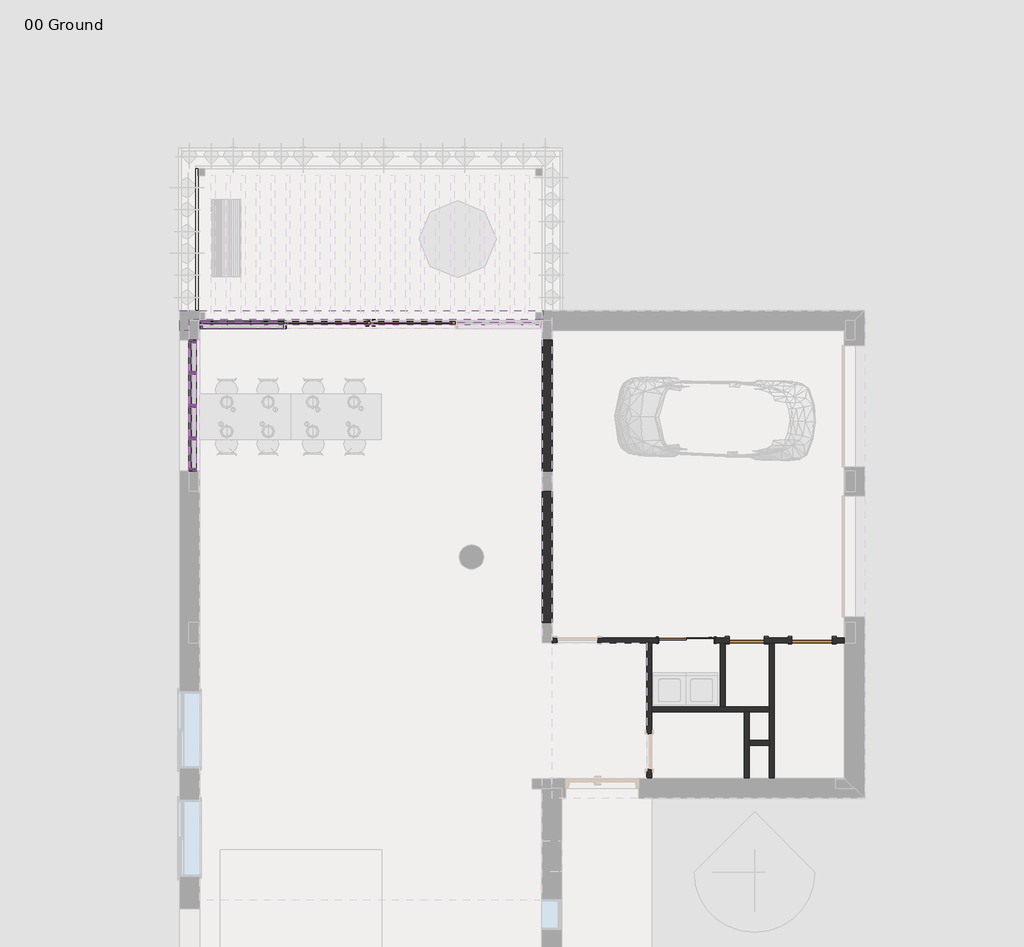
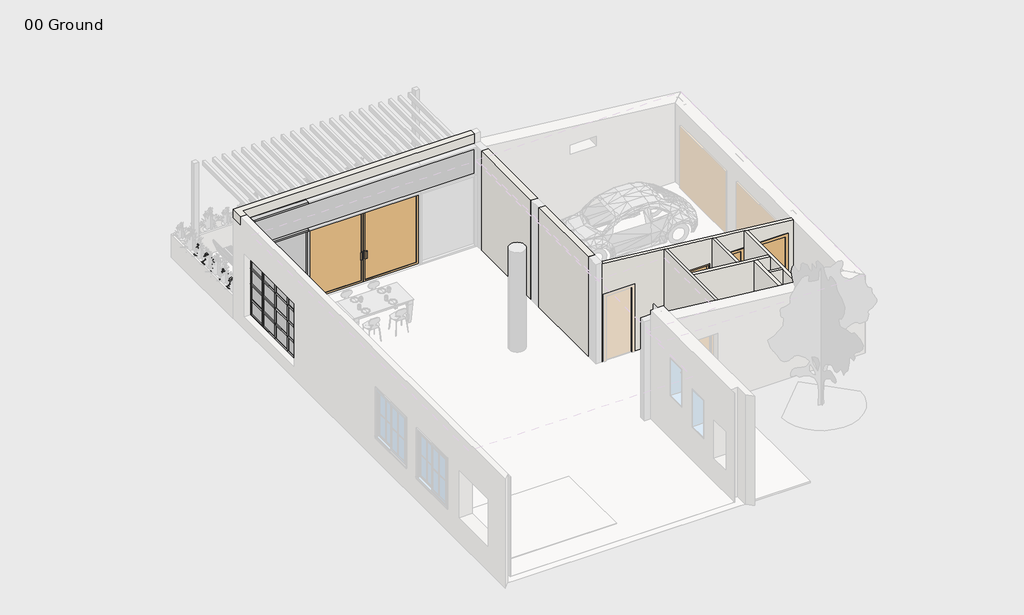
# One storey, part 2 of 4: 46 members, 18 plates, 10 walls, 4 doors.
"""IFC4 building model written with IfcOpenShell, lengths in millimetres."""

from ifc_helpers import new_model, si_unit, frame, origin, origin_with_axes, place, context, project, spatial, polyline, outline, extrude, faceted_brep, transform, mapped, element, save
from components import int_sliding_double_flush_nz_1100_double_sliding_door_f9a858bd, m_door_curtain_wall_double_storefront_m_door_curtain_wall_edb91ac7, m_single_flush_0700_x_2100mm_23326b45, m_single_flush_0800_x_2100mm_e1c1bfab, rectangular_mullion_50_x_150mm_ec782ea6, rectangular_mullion_50_x_150mm_324a6438, rectangular_mullion_50_x_150mm_8753ce05, rectangular_mullion_50_x_150mm_5618a3b2, rectangular_mullion_50_x_150mm_9d7ed0e7, rectangular_mullion_50_x_150mm_3942d5f1, rectangular_mullion_50_x_150mm_75048c14, rectangular_mullion_50_x_150mm_567eccab, rectangular_mullion_50_x_150mm_22f77a7a, rectangular_mullion_50_x_150mm_0a8c3443, rectangular_mullion_50_x_150mm_b3666dbd, rectangular_mullion_50_x_150mm_fcf054f2, rectangular_mullion_50_x_150mm_24157160, rectangular_mullion_50_x_150mm_bf0cb304, system_panel_glazed_5c27190a, system_panel_glazed_fdc58650, system_panel_glazed_d06015c9, system_panel_glazed_e38ec663, system_panel_glazed_707fa540, system_panel_solid_6db23722

model = new_model("IFC4")

# Units and contexts
model_context = context("Model", 3, world=origin())
ifc_project = project(units=[si_unit("LENGTHUNIT", "METRE", prefix="MILLI")], contexts=[model_context])

# Site, building, storey
site = spatial("IfcSite", under=ifc_project)
building = spatial("IfcBuilding", under=site)
storey = spatial("IfcBuildingStorey", under=building, Name="00 Ground", Elevation=0.0)

# Doors
placement = place(None, origin())
int_sliding_double_flush_nz_1100_double_sliding_door_shape = int_sliding_double_flush_nz_1100_double_sliding_door_f9a858bd(model_context)
element("IfcDoor", 1, ObjectType="Int Sliding Double-Flush (NZ) : 1100 DOUBLE SLIDING DOOR", at=placement, inside=storey, context=model_context, shape_type="MappedRepresentation", body=[
    mapped(int_sliding_double_flush_nz_1100_double_sliding_door_shape, transform((1539.7163421, -12.7101648, 0.0), x_axis=(1.0, 0.0, 0.0), y_axis=(0.0, 1.0, 0.0), z_axis=(0.0, 0.0, 1.0))),
])
m_door_curtain_wall_double_storefront_m_door_curtain_wall_shape = m_door_curtain_wall_double_storefront_m_door_curtain_wall_edb91ac7(model_context)
element("IfcDoor", 2, ObjectType="M_Door-Curtain-Wall-Double-Storefront : M_Door-Curtain-Wall-Double-Storefront", at=placement, inside=storey, context=model_context, shape_type="MappedRepresentation", body=[
    mapped(m_door_curtain_wall_double_storefront_m_door_curtain_wall_shape, transform((-4722.5407999, 6242.2898352, 0.0), x_axis=(1.0, 0.0, 0.0), y_axis=(0.0, 1.0, 0.0), z_axis=(0.0, 0.0, 1.0))),
])
m_single_flush_0700_x_2100mm_shape = m_single_flush_0700_x_2100mm_23326b45(model_context)
element("IfcDoor", 3, ObjectType="M_Single-Flush : 0700 x 2100mm", at=placement, inside=storey, context=model_context, shape_type="MappedRepresentation", body=[
    mapped(m_single_flush_0700_x_2100mm_shape, transform((2727.4592001, -12.7101648, 0.0), x_axis=(-1.0, 0.0, 0.0), y_axis=(0.0, -1.0, 0.0), z_axis=(0.0, 0.0, 1.0))),
])
m_single_flush_0800_x_2100mm_shape = m_single_flush_0800_x_2100mm_e1c1bfab(model_context)
element("IfcDoor", 4, ObjectType="M_Single-Flush : 0800 x 2100mm", at=placement, inside=storey, context=model_context, shape_type="MappedRepresentation", body=[
    mapped(m_single_flush_0800_x_2100mm_shape, transform((4024.4592001, -12.7101648, 0.0), x_axis=(1.0, 0.0, 0.0), y_axis=(0.0, 1.0, 0.0), z_axis=(0.0, 0.0, 1.0))),
])

# Members
rectangular_mullion_50_x_150mm_shape = rectangular_mullion_50_x_150mm_ec782ea6(model_context)
element("IfcMember", 5, ObjectType="Rectangular Mullion : 50 x 150mm", at=placement, inside=storey, context=model_context, shape_type="MappedRepresentation", body=[
    mapped(rectangular_mullion_50_x_150mm_shape, transform((-6422.5407999, 6242.2898352, 0.0), x_axis=(1.0, 0.0, 0.0), y_axis=(0.0, -1.0, 0.0), z_axis=(0.0, 0.0, -1.0))),
])
rectangular_mullion_50_x_150mm_2_shape = rectangular_mullion_50_x_150mm_324a6438(model_context)
element("IfcMember", 6, ObjectType="Rectangular Mullion : 50 x 150mm", at=placement, inside=storey, context=model_context, shape_type="MappedRepresentation", body=[
    mapped(rectangular_mullion_50_x_150mm_2_shape, transform((-8109.5407999, 6242.2898352, 3150.0), x_axis=(-1.0, 0.0, 0.0), y_axis=(0.0, -1.0, 0.0), z_axis=(0.0, 0.0, 1.0))),
])
rectangular_mullion_50_x_150mm_3_shape = rectangular_mullion_50_x_150mm_8753ce05(model_context)
element("IfcMember", 7, ObjectType="Rectangular Mullion : 50 x 150mm", at=placement, inside=storey, context=model_context, shape_type="MappedRepresentation", body=[
    mapped(rectangular_mullion_50_x_150mm_3_shape, transform((-8109.5407999, 6242.2898352, 2300.0), x_axis=(-1.0, 0.0, 0.0), y_axis=(0.0, -1.0, 0.0), z_axis=(0.0, 0.0, 1.0))),
])
rectangular_mullion_50_x_150mm_4_shape = rectangular_mullion_50_x_150mm_5618a3b2(model_context)
element("IfcMember", 8, ObjectType="Rectangular Mullion : 50 x 150mm", at=placement, inside=storey, context=model_context, shape_type="MappedRepresentation", body=[
    mapped(rectangular_mullion_50_x_150mm_4_shape, transform((-8247.5407999, 5937.2898352, 2400.0), x_axis=(0.0, 0.0, 1.0), y_axis=(1.0, 0.0, 0.0), z_axis=(0.0, 1.0, 0.0))),
])
element("IfcMember", 9, ObjectType="Rectangular Mullion : 50 x 150mm", at=placement, inside=storey, context=model_context, shape_type="MappedRepresentation", body=[
    mapped(rectangular_mullion_50_x_150mm_4_shape, transform((-8247.5407999, 3987.2898354, 2400.0), x_axis=(0.0, 0.0, 1.0), y_axis=(1.0, 0.0, 0.0), z_axis=(0.0, 1.0, 0.0))),
])
rectangular_mullion_50_x_150mm_5_shape = rectangular_mullion_50_x_150mm_9d7ed0e7(model_context)
element("IfcMember", 10, ObjectType="Rectangular Mullion : 50 x 150mm", at=placement, inside=storey, context=model_context, shape_type="MappedRepresentation", body=[
    mapped(rectangular_mullion_50_x_150mm_5_shape, transform((-8247.5407999, 4637.2898352, 2400.0), x_axis=(0.0, 0.0, 1.0), y_axis=(1.0, 0.0, 0.0), z_axis=(0.0, 1.0, 0.0))),
])
element("IfcMember", 11, ObjectType="Rectangular Mullion : 50 x 150mm", at=placement, inside=storey, context=model_context, shape_type="MappedRepresentation", body=[
    mapped(rectangular_mullion_50_x_150mm_5_shape, transform((-8247.5407999, 5287.2898351, 2400.0), x_axis=(0.0, 0.0, 1.0), y_axis=(1.0, 0.0, 0.0), z_axis=(0.0, 1.0, 0.0))),
])
element("IfcMember", 12, ObjectType="Rectangular Mullion : 50 x 150mm", at=placement, inside=storey, context=model_context, shape_type="MappedRepresentation", body=[
    mapped(rectangular_mullion_50_x_150mm_4_shape, transform((-8247.5407999, 3337.2898352, 400.0), x_axis=(0.0, 0.0, -1.0), y_axis=(1.0, 0.0, 0.0), z_axis=(0.0, -1.0, 0.0))),
])
element("IfcMember", 13, ObjectType="Rectangular Mullion : 50 x 150mm", at=placement, inside=storey, context=model_context, shape_type="MappedRepresentation", body=[
    mapped(rectangular_mullion_50_x_150mm_5_shape, transform((-8247.5407999, 3987.2898354, 400.0), x_axis=(0.0, 0.0, -1.0), y_axis=(1.0, 0.0, 0.0), z_axis=(0.0, -1.0, 0.0))),
])
element("IfcMember", 14, ObjectType="Rectangular Mullion : 50 x 150mm", at=placement, inside=storey, context=model_context, shape_type="MappedRepresentation", body=[
    mapped(rectangular_mullion_50_x_150mm_5_shape, transform((-8247.5407999, 4637.2898352, 400.0), x_axis=(0.0, 0.0, -1.0), y_axis=(1.0, 0.0, 0.0), z_axis=(0.0, -1.0, 0.0))),
])
element("IfcMember", 15, ObjectType="Rectangular Mullion : 50 x 150mm", at=placement, inside=storey, context=model_context, shape_type="MappedRepresentation", body=[
    mapped(rectangular_mullion_50_x_150mm_4_shape, transform((-8247.5407999, 5287.2898351, 400.0), x_axis=(0.0, 0.0, -1.0), y_axis=(1.0, 0.0, 0.0), z_axis=(0.0, -1.0, 0.0))),
])
rectangular_mullion_50_x_150mm_6_shape = rectangular_mullion_50_x_150mm_3942d5f1(model_context)
element("IfcMember", 16, ObjectType="Rectangular Mullion : 50 x 150mm", at=placement, inside=storey, context=model_context, shape_type="MappedRepresentation", body=[
    mapped(rectangular_mullion_50_x_150mm_6_shape, transform((-8247.5407999, 3962.2898354, 900.0), x_axis=(0.0, 0.0, 1.0), y_axis=(1.0, 0.0, 0.0), z_axis=(0.0, 1.0, 0.0))),
])
element("IfcMember", 17, ObjectType="Rectangular Mullion : 50 x 150mm", at=placement, inside=storey, context=model_context, shape_type="MappedRepresentation", body=[
    mapped(rectangular_mullion_50_x_150mm_6_shape, transform((-8247.5407999, 5887.2898352, 900.0), x_axis=(0.0, 0.0, 1.0), y_axis=(1.0, 0.0, 0.0), z_axis=(0.0, 1.0, 0.0))),
])
element("IfcMember", 18, ObjectType="Rectangular Mullion : 50 x 150mm", at=placement, inside=storey, context=model_context, shape_type="MappedRepresentation", body=[
    mapped(rectangular_mullion_50_x_150mm_6_shape, transform((-8247.5407999, 3962.2898354, 1400.0), x_axis=(0.0, 0.0, 1.0), y_axis=(1.0, 0.0, 0.0), z_axis=(0.0, 1.0, 0.0))),
])
element("IfcMember", 19, ObjectType="Rectangular Mullion : 50 x 150mm", at=placement, inside=storey, context=model_context, shape_type="MappedRepresentation", body=[
    mapped(rectangular_mullion_50_x_150mm_6_shape, transform((-8247.5407999, 5887.2898352, 1400.0), x_axis=(0.0, 0.0, 1.0), y_axis=(1.0, 0.0, 0.0), z_axis=(0.0, 1.0, 0.0))),
])
element("IfcMember", 20, ObjectType="Rectangular Mullion : 50 x 150mm", at=placement, inside=storey, context=model_context, shape_type="MappedRepresentation", body=[
    mapped(rectangular_mullion_50_x_150mm_6_shape, transform((-8247.5407999, 3962.2898354, 1900.0), x_axis=(0.0, 0.0, 1.0), y_axis=(1.0, 0.0, 0.0), z_axis=(0.0, 1.0, 0.0))),
])
element("IfcMember", 21, ObjectType="Rectangular Mullion : 50 x 150mm", at=placement, inside=storey, context=model_context, shape_type="MappedRepresentation", body=[
    mapped(rectangular_mullion_50_x_150mm_6_shape, transform((-8247.5407999, 5887.2898352, 1900.0), x_axis=(0.0, 0.0, 1.0), y_axis=(1.0, 0.0, 0.0), z_axis=(0.0, 1.0, 0.0))),
])
rectangular_mullion_50_x_150mm_7_shape = rectangular_mullion_50_x_150mm_75048c14(model_context)
element("IfcMember", 22, ObjectType="Rectangular Mullion : 50 x 150mm", at=placement, inside=storey, context=model_context, shape_type="MappedRepresentation", body=[
    mapped(rectangular_mullion_50_x_150mm_7_shape, transform((-8247.5407999, 4612.2898352, 900.0), x_axis=(0.0, 0.0, 1.0), y_axis=(1.0, 0.0, 0.0), z_axis=(0.0, 1.0, 0.0))),
])
element("IfcMember", 23, ObjectType="Rectangular Mullion : 50 x 150mm", at=placement, inside=storey, context=model_context, shape_type="MappedRepresentation", body=[
    mapped(rectangular_mullion_50_x_150mm_7_shape, transform((-8247.5407999, 5262.2898351, 900.0), x_axis=(0.0, 0.0, 1.0), y_axis=(1.0, 0.0, 0.0), z_axis=(0.0, 1.0, 0.0))),
])
element("IfcMember", 24, ObjectType="Rectangular Mullion : 50 x 150mm", at=placement, inside=storey, context=model_context, shape_type="MappedRepresentation", body=[
    mapped(rectangular_mullion_50_x_150mm_7_shape, transform((-8247.5407999, 4612.2898352, 1400.0), x_axis=(0.0, 0.0, 1.0), y_axis=(1.0, 0.0, 0.0), z_axis=(0.0, 1.0, 0.0))),
])
element("IfcMember", 25, ObjectType="Rectangular Mullion : 50 x 150mm", at=placement, inside=storey, context=model_context, shape_type="MappedRepresentation", body=[
    mapped(rectangular_mullion_50_x_150mm_7_shape, transform((-8247.5407999, 5262.2898351, 1400.0), x_axis=(0.0, 0.0, 1.0), y_axis=(1.0, 0.0, 0.0), z_axis=(0.0, 1.0, 0.0))),
])
element("IfcMember", 26, ObjectType="Rectangular Mullion : 50 x 150mm", at=placement, inside=storey, context=model_context, shape_type="MappedRepresentation", body=[
    mapped(rectangular_mullion_50_x_150mm_7_shape, transform((-8247.5407999, 4612.2898352, 1900.0), x_axis=(0.0, 0.0, 1.0), y_axis=(1.0, 0.0, 0.0), z_axis=(0.0, 1.0, 0.0))),
])
element("IfcMember", 27, ObjectType="Rectangular Mullion : 50 x 150mm", at=placement, inside=storey, context=model_context, shape_type="MappedRepresentation", body=[
    mapped(rectangular_mullion_50_x_150mm_7_shape, transform((-8247.5407999, 5262.2898351, 1900.0), x_axis=(0.0, 0.0, 1.0), y_axis=(1.0, 0.0, 0.0), z_axis=(0.0, 1.0, 0.0))),
])
rectangular_mullion_50_x_150mm_8_shape = rectangular_mullion_50_x_150mm_567eccab(model_context)
element("IfcMember", 28, ObjectType="Rectangular Mullion : 50 x 150mm", at=placement, inside=storey, context=model_context, shape_type="MappedRepresentation", body=[
    mapped(rectangular_mullion_50_x_150mm_8_shape, transform((-8247.5407999, 3987.2898354, 450.0), x_axis=(0.0, 1.0, 0.0), y_axis=(1.0, 0.0, 0.0), z_axis=(0.0, 0.0, -1.0))),
])
element("IfcMember", 29, ObjectType="Rectangular Mullion : 50 x 150mm", at=placement, inside=storey, context=model_context, shape_type="MappedRepresentation", body=[
    mapped(rectangular_mullion_50_x_150mm_8_shape, transform((-8247.5407999, 4637.2898352, 450.0), x_axis=(0.0, 1.0, 0.0), y_axis=(1.0, 0.0, 0.0), z_axis=(0.0, 0.0, -1.0))),
])
element("IfcMember", 30, ObjectType="Rectangular Mullion : 50 x 150mm", at=placement, inside=storey, context=model_context, shape_type="MappedRepresentation", body=[
    mapped(rectangular_mullion_50_x_150mm_8_shape, transform((-8247.5407999, 5287.2898351, 450.0), x_axis=(0.0, 1.0, 0.0), y_axis=(1.0, 0.0, 0.0), z_axis=(0.0, 0.0, -1.0))),
])
rectangular_mullion_50_x_150mm_9_shape = rectangular_mullion_50_x_150mm_22f77a7a(model_context)
element("IfcMember", 31, ObjectType="Rectangular Mullion : 50 x 150mm", at=placement, inside=storey, context=model_context, shape_type="MappedRepresentation", body=[
    mapped(rectangular_mullion_50_x_150mm_9_shape, transform((-8247.5407999, 3987.2898354, 900.0), x_axis=(0.0, 1.0, 0.0), y_axis=(1.0, 0.0, 0.0), z_axis=(0.0, 0.0, -1.0))),
])
element("IfcMember", 32, ObjectType="Rectangular Mullion : 50 x 150mm", at=placement, inside=storey, context=model_context, shape_type="MappedRepresentation", body=[
    mapped(rectangular_mullion_50_x_150mm_9_shape, transform((-8247.5407999, 4637.2898352, 900.0), x_axis=(0.0, 1.0, 0.0), y_axis=(1.0, 0.0, 0.0), z_axis=(0.0, 0.0, -1.0))),
])
element("IfcMember", 33, ObjectType="Rectangular Mullion : 50 x 150mm", at=placement, inside=storey, context=model_context, shape_type="MappedRepresentation", body=[
    mapped(rectangular_mullion_50_x_150mm_9_shape, transform((-8247.5407999, 5287.2898351, 900.0), x_axis=(0.0, 1.0, 0.0), y_axis=(1.0, 0.0, 0.0), z_axis=(0.0, 0.0, -1.0))),
])
element("IfcMember", 34, ObjectType="Rectangular Mullion : 50 x 150mm", at=placement, inside=storey, context=model_context, shape_type="MappedRepresentation", body=[
    mapped(rectangular_mullion_50_x_150mm_9_shape, transform((-8247.5407999, 3987.2898354, 1400.0), x_axis=(0.0, 1.0, 0.0), y_axis=(1.0, 0.0, 0.0), z_axis=(0.0, 0.0, -1.0))),
])
element("IfcMember", 35, ObjectType="Rectangular Mullion : 50 x 150mm", at=placement, inside=storey, context=model_context, shape_type="MappedRepresentation", body=[
    mapped(rectangular_mullion_50_x_150mm_9_shape, transform((-8247.5407999, 4637.2898352, 1400.0), x_axis=(0.0, 1.0, 0.0), y_axis=(1.0, 0.0, 0.0), z_axis=(0.0, 0.0, -1.0))),
])
element("IfcMember", 36, ObjectType="Rectangular Mullion : 50 x 150mm", at=placement, inside=storey, context=model_context, shape_type="MappedRepresentation", body=[
    mapped(rectangular_mullion_50_x_150mm_9_shape, transform((-8247.5407999, 5287.2898351, 1400.0), x_axis=(0.0, 1.0, 0.0), y_axis=(1.0, 0.0, 0.0), z_axis=(0.0, 0.0, -1.0))),
])
element("IfcMember", 37, ObjectType="Rectangular Mullion : 50 x 150mm", at=placement, inside=storey, context=model_context, shape_type="MappedRepresentation", body=[
    mapped(rectangular_mullion_50_x_150mm_8_shape, transform((-8247.5407999, 3987.2898354, 1900.0), x_axis=(0.0, 1.0, 0.0), y_axis=(1.0, 0.0, 0.0), z_axis=(0.0, 0.0, -1.0))),
])
element("IfcMember", 38, ObjectType="Rectangular Mullion : 50 x 150mm", at=placement, inside=storey, context=model_context, shape_type="MappedRepresentation", body=[
    mapped(rectangular_mullion_50_x_150mm_8_shape, transform((-8247.5407999, 4637.2898352, 1900.0), x_axis=(0.0, 1.0, 0.0), y_axis=(1.0, 0.0, 0.0), z_axis=(0.0, 0.0, -1.0))),
])
element("IfcMember", 39, ObjectType="Rectangular Mullion : 50 x 150mm", at=placement, inside=storey, context=model_context, shape_type="MappedRepresentation", body=[
    mapped(rectangular_mullion_50_x_150mm_8_shape, transform((-8247.5407999, 5287.2898351, 1900.0), x_axis=(0.0, 1.0, 0.0), y_axis=(1.0, 0.0, 0.0), z_axis=(0.0, 0.0, -1.0))),
])
rectangular_mullion_50_x_150mm_10_shape = rectangular_mullion_50_x_150mm_0a8c3443(model_context)
element("IfcMember", 40, ObjectType="Rectangular Mullion : 50 x 150mm", at=placement, inside=storey, context=model_context, shape_type="MappedRepresentation", body=[
    mapped(rectangular_mullion_50_x_150mm_10_shape, transform((-8247.5407999, 5937.2898352, 450.0), x_axis=(0.0, 1.0, 0.0), y_axis=(1.0, 0.0, 0.0), z_axis=(0.0, 0.0, -1.0))),
])
rectangular_mullion_50_x_150mm_11_shape = rectangular_mullion_50_x_150mm_b3666dbd(model_context)
element("IfcMember", 41, ObjectType="Rectangular Mullion : 50 x 150mm", at=placement, inside=storey, context=model_context, shape_type="MappedRepresentation", body=[
    mapped(rectangular_mullion_50_x_150mm_11_shape, transform((-8247.5407999, 5937.2898352, 900.0), x_axis=(0.0, 1.0, 0.0), y_axis=(1.0, 0.0, 0.0), z_axis=(0.0, 0.0, -1.0))),
])
element("IfcMember", 42, ObjectType="Rectangular Mullion : 50 x 150mm", at=placement, inside=storey, context=model_context, shape_type="MappedRepresentation", body=[
    mapped(rectangular_mullion_50_x_150mm_11_shape, transform((-8247.5407999, 5937.2898352, 1400.0), x_axis=(0.0, 1.0, 0.0), y_axis=(1.0, 0.0, 0.0), z_axis=(0.0, 0.0, -1.0))),
])
element("IfcMember", 43, ObjectType="Rectangular Mullion : 50 x 150mm", at=placement, inside=storey, context=model_context, shape_type="MappedRepresentation", body=[
    mapped(rectangular_mullion_50_x_150mm_10_shape, transform((-8247.5407999, 5937.2898352, 1900.0), x_axis=(0.0, 1.0, 0.0), y_axis=(1.0, 0.0, 0.0), z_axis=(0.0, 0.0, -1.0))),
])
element("IfcMember", 44, ObjectType="Rectangular Mullion : 50 x 150mm", at=placement, inside=storey, context=model_context, shape_type="MappedRepresentation", body=[
    mapped(rectangular_mullion_50_x_150mm_10_shape, transform((-8247.5407999, 3337.2898352, 2350.0), x_axis=(0.0, -1.0, 0.0), y_axis=(1.0, 0.0, 0.0), z_axis=(0.0, 0.0, 1.0))),
])
element("IfcMember", 45, ObjectType="Rectangular Mullion : 50 x 150mm", at=placement, inside=storey, context=model_context, shape_type="MappedRepresentation", body=[
    mapped(rectangular_mullion_50_x_150mm_10_shape, transform((-8247.5407999, 3337.2898352, 900.0), x_axis=(0.0, -1.0, 0.0), y_axis=(1.0, 0.0, 0.0), z_axis=(0.0, 0.0, 1.0))),
])
element("IfcMember", 46, ObjectType="Rectangular Mullion : 50 x 150mm", at=placement, inside=storey, context=model_context, shape_type="MappedRepresentation", body=[
    mapped(rectangular_mullion_50_x_150mm_11_shape, transform((-8247.5407999, 3337.2898352, 1400.0), x_axis=(0.0, -1.0, 0.0), y_axis=(1.0, 0.0, 0.0), z_axis=(0.0, 0.0, 1.0))),
])
element("IfcMember", 47, ObjectType="Rectangular Mullion : 50 x 150mm", at=placement, inside=storey, context=model_context, shape_type="MappedRepresentation", body=[
    mapped(rectangular_mullion_50_x_150mm_11_shape, transform((-8247.5407999, 3337.2898352, 1900.0), x_axis=(0.0, -1.0, 0.0), y_axis=(1.0, 0.0, 0.0), z_axis=(0.0, 0.0, 1.0))),
])
rectangular_mullion_50_x_150mm_12_shape = rectangular_mullion_50_x_150mm_fcf054f2(model_context)
element("IfcMember", 48, ObjectType="Rectangular Mullion : 50 x 150mm", at=placement, inside=storey, context=model_context, shape_type="MappedRepresentation", body=[
    mapped(rectangular_mullion_50_x_150mm_12_shape, transform((-6422.5407999, 6242.2898352, 3200.0), x_axis=(0.0, 0.0, 1.0), y_axis=(0.0, -1.0, 0.0), z_axis=(1.0, 0.0, 0.0))),
])
rectangular_mullion_50_x_150mm_13_shape = rectangular_mullion_50_x_150mm_24157160(model_context)
element("IfcMember", 49, ObjectType="Rectangular Mullion : 50 x 150mm", at=placement, inside=storey, context=model_context, shape_type="MappedRepresentation", body=[
    mapped(rectangular_mullion_50_x_150mm_13_shape, transform((-8059.5407999, 6242.2898352, 0.0), x_axis=(0.0, 0.0, -1.0), y_axis=(0.0, -1.0, 0.0), z_axis=(-1.0, 0.0, 0.0))),
])
rectangular_mullion_50_x_150mm_14_shape = rectangular_mullion_50_x_150mm_bf0cb304(model_context)
element("IfcMember", 50, ObjectType="Rectangular Mullion : 50 x 150mm", at=placement, inside=storey, context=model_context, shape_type="MappedRepresentation", body=[
    mapped(rectangular_mullion_50_x_150mm_14_shape, transform((-6422.5407999, 6242.2898352, 2300.0), x_axis=(0.0, 0.0, 1.0), y_axis=(0.0, -1.0, 0.0), z_axis=(1.0, 0.0, 0.0))),
])

# Plates
system_panel_glazed_shape = system_panel_glazed_5c27190a(model_context)
element("IfcPlate", 51, ObjectType="System Panel : Glazed", at=placement, inside=storey, context=model_context, shape_type="MappedRepresentation", body=[
    mapped(system_panel_glazed_shape, transform((-8247.5407999, 3674.7898353, 450.0), x_axis=(0.0, 1.0, 0.0), y_axis=(-1.0, 0.0, 0.0), z_axis=(0.0, 0.0, 1.0))),
])
element("IfcPlate", 52, ObjectType="System Panel : Glazed", at=placement, inside=storey, context=model_context, shape_type="MappedRepresentation", body=[
    mapped(system_panel_glazed_shape, transform((-8247.5407999, 5599.7898352, 450.0), x_axis=(0.0, 1.0, 0.0), y_axis=(-1.0, 0.0, 0.0), z_axis=(0.0, 0.0, 1.0))),
])
element("IfcPlate", 53, ObjectType="System Panel : Glazed", at=placement, inside=storey, context=model_context, shape_type="MappedRepresentation", body=[
    mapped(system_panel_glazed_shape, transform((-8247.5407999, 3674.7898353, 1925.0), x_axis=(0.0, 1.0, 0.0), y_axis=(-1.0, 0.0, 0.0), z_axis=(0.0, 0.0, 1.0))),
])
element("IfcPlate", 54, ObjectType="System Panel : Glazed", at=placement, inside=storey, context=model_context, shape_type="MappedRepresentation", body=[
    mapped(system_panel_glazed_shape, transform((-8247.5407999, 5599.7898352, 1925.0), x_axis=(0.0, 1.0, 0.0), y_axis=(-1.0, 0.0, 0.0), z_axis=(0.0, 0.0, 1.0))),
])
system_panel_glazed_2_shape = system_panel_glazed_fdc58650(model_context)
element("IfcPlate", 55, ObjectType="System Panel : Glazed", at=placement, inside=storey, context=model_context, shape_type="MappedRepresentation", body=[
    mapped(system_panel_glazed_2_shape, transform((-8247.5407999, 4312.2898353, 450.0), x_axis=(0.0, 1.0, 0.0), y_axis=(-1.0, 0.0, 0.0), z_axis=(0.0, 0.0, 1.0))),
])
element("IfcPlate", 56, ObjectType="System Panel : Glazed", at=placement, inside=storey, context=model_context, shape_type="MappedRepresentation", body=[
    mapped(system_panel_glazed_2_shape, transform((-8247.5407999, 4962.2898352, 450.0), x_axis=(0.0, 1.0, 0.0), y_axis=(-1.0, 0.0, 0.0), z_axis=(0.0, 0.0, 1.0))),
])
element("IfcPlate", 57, ObjectType="System Panel : Glazed", at=placement, inside=storey, context=model_context, shape_type="MappedRepresentation", body=[
    mapped(system_panel_glazed_2_shape, transform((-8247.5407999, 4312.2898353, 1925.0), x_axis=(0.0, 1.0, 0.0), y_axis=(-1.0, 0.0, 0.0), z_axis=(0.0, 0.0, 1.0))),
])
element("IfcPlate", 58, ObjectType="System Panel : Glazed", at=placement, inside=storey, context=model_context, shape_type="MappedRepresentation", body=[
    mapped(system_panel_glazed_2_shape, transform((-8247.5407999, 4962.2898352, 1925.0), x_axis=(0.0, 1.0, 0.0), y_axis=(-1.0, 0.0, 0.0), z_axis=(0.0, 0.0, 1.0))),
])
system_panel_glazed_3_shape = system_panel_glazed_d06015c9(model_context)
element("IfcPlate", 59, ObjectType="System Panel : Glazed", at=placement, inside=storey, context=model_context, shape_type="MappedRepresentation", body=[
    mapped(system_panel_glazed_3_shape, transform((-8247.5407999, 3674.7898353, 925.0), x_axis=(0.0, 1.0, 0.0), y_axis=(-1.0, 0.0, 0.0), z_axis=(0.0, 0.0, 1.0))),
])
element("IfcPlate", 60, ObjectType="System Panel : Glazed", at=placement, inside=storey, context=model_context, shape_type="MappedRepresentation", body=[
    mapped(system_panel_glazed_3_shape, transform((-8247.5407999, 5599.7898352, 925.0), x_axis=(0.0, 1.0, 0.0), y_axis=(-1.0, 0.0, 0.0), z_axis=(0.0, 0.0, 1.0))),
])
element("IfcPlate", 61, ObjectType="System Panel : Glazed", at=placement, inside=storey, context=model_context, shape_type="MappedRepresentation", body=[
    mapped(system_panel_glazed_3_shape, transform((-8247.5407999, 3674.7898353, 1425.0), x_axis=(0.0, 1.0, 0.0), y_axis=(-1.0, 0.0, 0.0), z_axis=(0.0, 0.0, 1.0))),
])
element("IfcPlate", 62, ObjectType="System Panel : Glazed", at=placement, inside=storey, context=model_context, shape_type="MappedRepresentation", body=[
    mapped(system_panel_glazed_3_shape, transform((-8247.5407999, 5599.7898352, 1425.0), x_axis=(0.0, 1.0, 0.0), y_axis=(-1.0, 0.0, 0.0), z_axis=(0.0, 0.0, 1.0))),
])
system_panel_glazed_4_shape = system_panel_glazed_e38ec663(model_context)
element("IfcPlate", 63, ObjectType="System Panel : Glazed", at=placement, inside=storey, context=model_context, shape_type="MappedRepresentation", body=[
    mapped(system_panel_glazed_4_shape, transform((-8247.5407999, 4312.2898353, 925.0), x_axis=(0.0, 1.0, 0.0), y_axis=(-1.0, 0.0, 0.0), z_axis=(0.0, 0.0, 1.0))),
])
element("IfcPlate", 64, ObjectType="System Panel : Glazed", at=placement, inside=storey, context=model_context, shape_type="MappedRepresentation", body=[
    mapped(system_panel_glazed_4_shape, transform((-8247.5407999, 4962.2898352, 925.0), x_axis=(0.0, 1.0, 0.0), y_axis=(-1.0, 0.0, 0.0), z_axis=(0.0, 0.0, 1.0))),
])
element("IfcPlate", 65, ObjectType="System Panel : Glazed", at=placement, inside=storey, context=model_context, shape_type="MappedRepresentation", body=[
    mapped(system_panel_glazed_4_shape, transform((-8247.5407999, 4312.2898353, 1425.0), x_axis=(0.0, 1.0, 0.0), y_axis=(-1.0, 0.0, 0.0), z_axis=(0.0, 0.0, 1.0))),
])
element("IfcPlate", 66, ObjectType="System Panel : Glazed", at=placement, inside=storey, context=model_context, shape_type="MappedRepresentation", body=[
    mapped(system_panel_glazed_4_shape, transform((-8247.5407999, 4962.2898352, 1425.0), x_axis=(0.0, 1.0, 0.0), y_axis=(-1.0, 0.0, 0.0), z_axis=(0.0, 0.0, 1.0))),
])
system_panel_glazed_5_shape = system_panel_glazed_707fa540(model_context)
element("IfcPlate", 67, ObjectType="System Panel : Glazed", at=placement, inside=storey, context=model_context, shape_type="MappedRepresentation", body=[
    mapped(system_panel_glazed_5_shape, transform((-7253.5407999, 6242.2898352, 50.0), x_axis=(1.0, 0.0, 0.0), y_axis=(0.0, 1.0, 0.0), z_axis=(0.0, 0.0, 1.0))),
])
system_panel_solid_shape = system_panel_solid_6db23722(model_context)
element("IfcPlate", 68, ObjectType="System Panel : Solid", at=placement, inside=storey, context=model_context, shape_type="MappedRepresentation", body=[
    mapped(system_panel_solid_shape, transform((-4716.0407999, 6242.2898352, 2325.0), x_axis=(1.0, 0.0, 0.0), y_axis=(0.0, 1.0, 0.0), z_axis=(0.0, 0.0, 1.0))),
])

# Walls
element("IfcWall", 69, ObjectType="45T-25linea", at=placement, inside=storey, context=model_context, shape_type="SweptSolid", body=[
    extrude(outline(polyline([(-8182.5407999, 6522.2898352), (-8182.5407999, 9337.2898352), (-8137.5407999, 9337.2898352), (-8137.5407999, 6522.2898352), (-8182.5407999, 6522.2898352)])), origin_with_axes(), (0.0, 0.0, 1.0), 750.0),
])
element("IfcWall", 70, ObjectType="Exterior - Brick on CMU", at=placement, inside=storey, context=model_context, shape_type="Brep", body=[
    faceted_brep([(-8507.5407999, 6522.2898352, 3200.0), (-8507.5407999, 6522.2898352, 3500.0), (-2997.5407999, 6522.2898352, 3500.0), (-1300.0407999, 6522.2898352, 3500.0), (-1300.0407999, 6522.2898352, 3200.0), (-1322.5407999, 6522.2898352, 3200.0), (-8109.5407999, 6522.2898352, 3200.0), (-8507.5407999, 6124.2898352, 3500.0), (-8507.5407999, 6124.2898352, 3200.0), (-8322.5407999, 6124.2898352, 3200.0), (-8322.5407999, 6124.2898352, 3500.0), (-1300.0407999, 6337.2898352, 3200.0), (-1322.5407999, 6337.2898352, 3200.0), (-8122.5407999, 6337.2898352, 3200.0), (-8322.5407999, 6337.2898352, 3200.0), (-8322.5407999, 6337.2898352, 3500.0), (-1300.0407999, 6337.2898352, 3500.0)], [[[0, 1, 2, 3, 4, 5, 6]], [[7, 8, 9, 10]], [[8, 0, 6, 5, 4, 11, 12, 13, 14, 9]], [[1, 0, 8, 7]], [[1, 7, 10, 15, 16, 3, 2]], [[15, 14, 13, 12, 11, 16]], [[4, 3, 16, 11]], [[14, 15, 10, 9]]]),
])
element("IfcWall", 71, ObjectType="Generic - 100mm", at=placement, inside=storey, context=model_context, shape_type="Brep", body=[
    faceted_brep([(3277.4592001, -2749.7101648, 0.0), (3277.4592001, -62.7101648, 0.0), (3277.4592001, -62.7101648, 2690.4769604), (3277.4592001, -2749.7101648, 2690.4769604), (3177.4592001, -2749.7101648, 0.0), (3177.4592001, -2749.7101648, 2701.1479386), (3177.4592001, -2097.7101648, 2701.1479386), (3177.4592001, -1997.7101648, 2701.1479386), (3177.4592001, -1432.7101648, 2701.1479386), (3177.4592001, -1332.7101648, 2701.1479386), (3177.4592001, -62.7101648, 2701.1479386), (3177.4592001, -62.7101648, 0.0), (3177.4592001, -1332.7101648, 0.0), (3177.4592001, -1432.7101648, 0.0), (3177.4592001, -1997.7101648, 0.0), (3177.4592001, -2097.7101648, 0.0)], [[[0, 1, 2, 3]], [[4, 5, 6, 7, 8, 9, 10, 11, 12, 13, 14, 15]], [[1, 0, 4, 15, 14, 13, 12, 11]], [[0, 3, 5, 4]], [[2, 1, 11, 10]], [[3, 2, 10, 9, 8, 7, 6, 5]]]),
])
element("IfcWall", 72, ObjectType="Generic - 100mm", at=placement, inside=storey, context=model_context, shape_type="Brep", body=[
    faceted_brep([(-1122.5407999, 37.2898352, 0.0), (-1122.5407999, 37.2898352, 3160.0), (4664.4592001, 37.2898352, 2542.4704931), (4664.4592001, 37.2898352, 0.0), (4424.4592001, 37.2898352, 0.0), (4424.4592001, 37.2898352, 2100.0), (3624.4592001, 37.2898352, 2100.0), (3624.4592001, 37.2898352, 0.0), (3077.4592001, 37.2898352, 0.0), (3077.4592001, 37.2898352, 2100.0), (2377.4592001, 37.2898352, 2100.0), (2377.4592001, 37.2898352, 0.0), (2102.4592001, 37.2898352, 0.0), (2102.4592001, 37.2898352, 1999.0), (964.4592001, 37.2898352, 1999.0), (964.4592001, 37.2898352, 0.0), (-222.5407999, 37.2898352, 0.0), (-222.5407999, 37.2898352, 2100.0), (-1022.5407999, 37.2898352, 2100.0), (-1022.5407999, 37.2898352, 0.0), (-1122.5407999, -62.7101648, 3160.0), (-1122.5407999, -62.7101648, 0.0), (-1022.5407999, -62.7101648, 0.0), (-1022.5407999, -62.7101648, 2100.0), (-222.5407999, -62.7101648, 2100.0), (-222.5407999, -62.7101648, 0.0), (746.9592001, -62.7101648, 0.0), (846.9592001, -62.7101648, 0.0), (964.4592001, -62.7101648, 0.0), (964.4592001, -62.7101648, 1999.0), (2102.4592001, -62.7101648, 1999.0), (2102.4592001, -62.7101648, 0.0), (2202.4592001, -62.7101648, 0.0), (2302.4592001, -62.7101648, 0.0), (2377.4592001, -62.7101648, 0.0), (2377.4592001, -62.7101648, 2100.0), (3077.4592001, -62.7101648, 2100.0), (3077.4592001, -62.7101648, 0.0), (3177.4592001, -62.7101648, 0.0), (3277.4592001, -62.7101648, 0.0), (3624.4592001, -62.7101648, 0.0), (3624.4592001, -62.7101648, 2100.0), (4424.4592001, -62.7101648, 2100.0), (4424.4592001, -62.7101648, 0.0), (4664.4592001, -62.7101648, 0.0), (4664.4592001, -62.7101648, 2542.4704931), (3277.4592001, -62.7101648, 2690.4769604), (3177.4592001, -62.7101648, 2701.1479386), (2302.4592001, -62.7101648, 2794.5189976), (2202.4592001, -62.7101648, 2805.1899757), (846.9592001, -62.7101648, 2949.8350849), (746.9592001, -62.7101648, 2960.5060631)], [[[0, 1, 2, 3, 4, 5, 6, 7, 8, 9, 10, 11, 12, 13, 14, 15, 16, 17, 18, 19]], [[20, 21, 22, 23, 24, 25, 26, 27, 28, 29, 30, 31, 32, 33, 34, 35, 36, 37, 38, 39, 40, 41, 42, 43, 44, 45, 46, 47, 48, 49, 50, 51]], [[21, 0, 19, 22]], [[3, 44, 43, 4]], [[25, 16, 15, 28, 27, 26]], [[7, 40, 39, 38, 37, 8]], [[11, 34, 33, 32, 31, 12]], [[1, 0, 21, 20]], [[3, 2, 45, 44]], [[2, 1, 20, 51, 50, 49, 48, 47, 46, 45]], [[23, 22, 19, 18]], [[24, 23, 18, 17]], [[25, 24, 17, 16]], [[5, 4, 43, 42]], [[6, 5, 42, 41]], [[7, 6, 41, 40]], [[35, 34, 11, 10]], [[36, 35, 10, 9]], [[37, 36, 9, 8]], [[30, 13, 12, 31]], [[13, 30, 29, 14]], [[14, 29, 28, 15]]]),
])
element("IfcWall", 73, ObjectType="Generic - 100mm", at=placement, inside=storey, context=model_context, shape_type="Brep", body=[
    faceted_brep([(846.9592001, -2749.7101648, 0.0), (846.9592001, -2569.7101648, 0.0), (846.9592001, -2569.7101648, 2100.0), (846.9592001, -1869.7101648, 2100.0), (846.9592001, -1869.7101648, 0.0), (846.9592001, -1432.7101648, 0.0), (846.9592001, -1332.7101648, 0.0), (846.9592001, -62.7101648, 0.0), (846.9592001, -62.7101648, 2949.8350849), (846.9592001, -1332.7101648, 2949.8350849), (846.9592001, -1432.7101648, 2949.8350849), (846.9592001, -2749.7101648, 2949.8350849), (746.9592001, -2569.7101648, 2100.0), (746.9592001, -2569.7101648, 0.0), (746.9592001, -2749.7101648, 0.0), (746.9592001, -2749.7101648, 2960.5060631), (746.9592001, -62.7101648, 2960.5060631), (746.9592001, -62.7101648, 0.0), (746.9592001, -1869.7101648, 0.0), (746.9592001, -1869.7101648, 2100.0)], [[[0, 1, 2, 3, 4, 5, 6, 7, 8, 9, 10, 11]], [[12, 13, 14, 15, 16, 17, 18, 19]], [[18, 17, 7, 6, 5, 4]], [[14, 13, 1, 0]], [[0, 11, 15, 14]], [[8, 7, 17, 16]], [[11, 10, 9, 8, 16, 15]], [[2, 1, 13, 12]], [[3, 2, 12, 19]], [[4, 3, 19, 18]]]),
])
element("IfcWall", 74, ObjectType="Generic - 100mm", at=placement, inside=storey, context=model_context, shape_type="Brep", body=[
    faceted_brep([(846.9592001, -1432.7101648, 0.0), (2677.4592001, -1432.7101648, 0.0), (2777.4592001, -1432.7101648, 0.0), (3177.4592001, -1432.7101648, 0.0), (3177.4592001, -1432.7101648, 2701.1479386), (2777.4592001, -1432.7101648, 2743.8318513), (2677.4592001, -1432.7101648, 2754.5028294), (846.9592001, -1432.7101648, 2949.8350849), (846.9592001, -1332.7101648, 0.0), (846.9592001, -1332.7101648, 2949.8350849), (2202.4592001, -1332.7101648, 2805.1899757), (2302.4592001, -1332.7101648, 2794.5189976), (3177.4592001, -1332.7101648, 2701.1479386), (3177.4592001, -1332.7101648, 0.0), (2302.4592001, -1332.7101648, 0.0), (2202.4592001, -1332.7101648, 0.0)], [[[0, 1, 2, 3, 4, 5, 6, 7]], [[8, 9, 10, 11, 12, 13, 14, 15]], [[3, 2, 1, 0, 8, 15, 14, 13]], [[4, 3, 13, 12]], [[0, 7, 9, 8]], [[7, 6, 5, 4, 12, 11, 10, 9]]]),
])
element("IfcWall", 75, ObjectType="Generic - 100mm", at=placement, inside=storey, context=model_context, shape_type="Brep", body=[
    faceted_brep([(2777.4592001, -2749.7101648, 0.0), (2777.4592001, -2097.7101648, 0.0), (2777.4592001, -1997.7101648, 0.0), (2777.4592001, -1432.7101648, 0.0), (2777.4592001, -1432.7101648, 2743.8318513), (2777.4592001, -1997.7101648, 2743.8318513), (2777.4592001, -2097.7101648, 2743.8318513), (2777.4592001, -2749.7101648, 2743.8318513), (2677.4592001, -2749.7101648, 0.0), (2677.4592001, -2749.7101648, 2754.5028294), (2677.4592001, -1432.7101648, 2754.5028294), (2677.4592001, -1432.7101648, 0.0)], [[[0, 1, 2, 3, 4, 5, 6, 7]], [[8, 9, 10, 11]], [[3, 2, 1, 0, 8, 11]], [[0, 7, 9, 8]], [[4, 3, 11, 10]], [[7, 6, 5, 4, 10, 9]]]),
])
element("IfcWall", 76, ObjectType="Generic - 100mm", at=placement, inside=storey, context=model_context, shape_type="SweptSolid", body=[
    extrude(outline(polyline([(0.0, 2777.4592001), (0.0, 3177.4592001), (2701.1479386, 3177.4592001), (2743.8318513, 2777.4592001), (0.0, 2777.4592001)])), frame((0.0, -2097.7101648, 0.0), z_axis=(0.0, 1.0, 0.0), x_axis=(0.0, 0.0, 1.0)), (0.0, 0.0, 1.0), 100.0),
])
element("IfcWall", 77, ObjectType="Generic - 100mm", at=placement, inside=storey, context=model_context, shape_type="SweptSolid", body=[
    extrude(outline(polyline([(0.0, 2302.4592001), (2794.5189976, 2302.4592001), (2805.1899757, 2202.4592001), (0.0, 2202.4592001), (0.0, 2302.4592001)])), frame((0.0, -1332.7101648, 0.0), z_axis=(0.0, 1.0, 0.0), x_axis=(0.0, 0.0, 1.0)), (0.0, 0.0, 1.0), 1270.0),
])
element("IfcWall", 78, ObjectType="Generic - 200mm - Filled", at=placement, inside=storey, context=model_context, shape_type="SweptSolid", body=[
    extrude(outline(polyline([(-1322.5407999, 5937.2898352), (-1122.5407999, 5937.2898352), (-1122.5407999, 3337.2898352), (-1322.5407999, 3337.2898352), (-1322.5407999, 5937.2898352)])), origin_with_axes(), (0.0, 0.0, 1.0), 3200.0),
    extrude(outline(polyline([(-1322.5407999, 2937.2898352), (-1122.5407999, 2937.2898352), (-1122.5407999, 337.2898352), (-1322.5407999, 337.2898352), (-1322.5407999, 2937.2898352)])), origin_with_axes(), (0.0, 0.0, 1.0), 3200.0),
])

save(model, "model.ifc")
